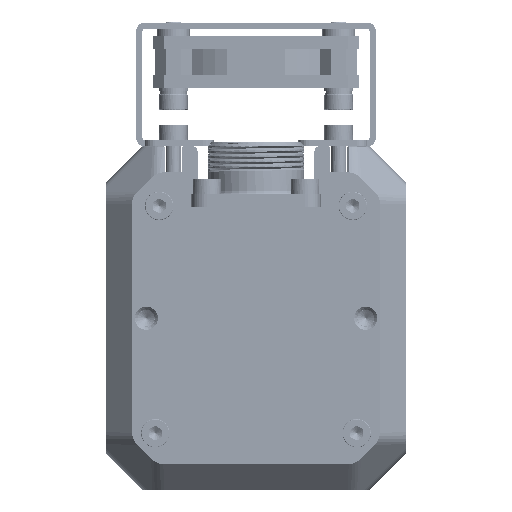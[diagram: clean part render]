
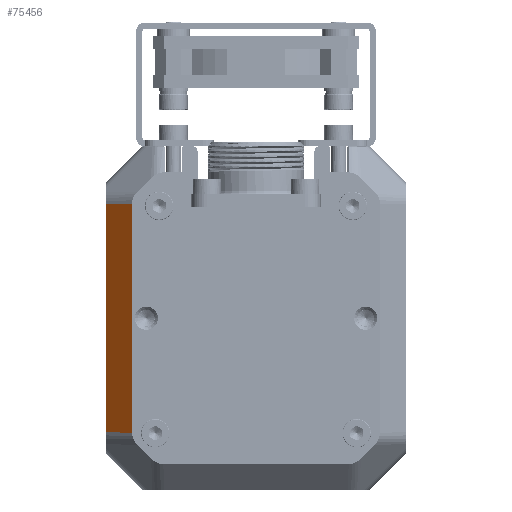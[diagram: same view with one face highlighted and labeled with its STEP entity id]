
A CAD part, front view. The second image highlights one B-rep face of the part: STEP entity #75456.
In plain terms, the highlighted planar face has unit normal (-0.707, -0.707, 0) as drawn and (0.707, 0, 0.707) by its records, which use the part's own axes.
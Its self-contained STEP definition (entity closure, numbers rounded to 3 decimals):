
#69272=DIRECTION('',(0.,1.,0.));
#69273=VECTOR('',#69272,44.094);
#69274=CARTESIAN_POINT('',(29.,-55.297,-5.));
#69275=LINE('',#69274,#69273);
#70121=CARTESIAN_POINT('',(29.,-55.297,-5.));
#70131=DIRECTION('',(-0.707,-0.02,0.707));
#70132=VECTOR('',#70131,7.072);
#70133=CARTESIAN_POINT('',(29.,-55.297,-5.));
#70134=LINE('',#70133,#70132);
#70138=DIRECTION('',(0.,1.,0.));
#70139=VECTOR('',#70138,44.371);
#70140=CARTESIAN_POINT('',(24.,-55.435,0.));
#70141=LINE('',#70140,#70139);
#70145=DIRECTION('',(0.707,-0.02,-0.707));
#70146=VECTOR('',#70145,7.072);
#70147=CARTESIAN_POINT('',(24.,-11.065,0.));
#70148=LINE('',#70147,#70146);
#70152=CARTESIAN_POINT('',(24.,-11.065,0.));
#71759=VERTEX_POINT('',#70152);
#71760=CARTESIAN_POINT('',(24.,-55.435,0.));
#71761=VERTEX_POINT('',#71760);
#72426=VERTEX_POINT('',#70121);
#72427=CARTESIAN_POINT('',(29.,-11.203,-5.));
#72428=VERTEX_POINT('',#72427);
#75444=CARTESIAN_POINT('',(26.5,-33.25,-2.5));
#75445=DIRECTION('',(0.707,0.,0.707));
#75446=DIRECTION('',(0.707,0.,-0.707));
#75447=AXIS2_PLACEMENT_3D('',#75444,#75445,#75446);
#75448=PLANE('',#75447);
#75449=ORIENTED_EDGE('',*,*,#74626,.F.);
#75450=ORIENTED_EDGE('',*,*,#75437,.T.);
#75451=ORIENTED_EDGE('',*,*,#72702,.T.);
#75453=ORIENTED_EDGE('',*,*,#75452,.T.);
#75454=EDGE_LOOP('',(#75449,#75450,#75451,#75453));
#75455=FACE_OUTER_BOUND('',#75454,.F.);
#72702=EDGE_CURVE('',#71761,#71759,#70141,.T.);
#74626=EDGE_CURVE('',#72426,#72428,#69275,.T.);
#75437=EDGE_CURVE('',#72426,#71761,#70134,.T.);
#75452=EDGE_CURVE('',#71759,#72428,#70148,.T.);
#75456=ADVANCED_FACE('',(#75455),#75448,.T.);
